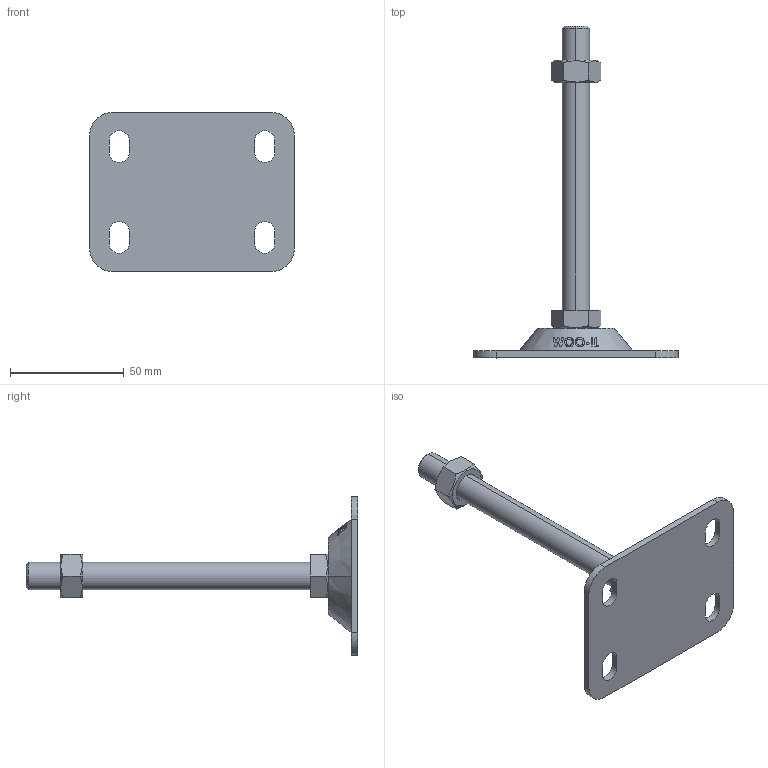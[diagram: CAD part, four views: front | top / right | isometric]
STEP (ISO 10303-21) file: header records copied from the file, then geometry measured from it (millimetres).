
FILE_DESCRIPTION (( 'STEP AP214' ), '1' );
FILE_NAME ('FABL7090-M12-125.step', '2021-03-28T23:50:46', ( '' ), ( '' ), 'SwSTEP 2.0', 'SolidWorks 2019', '' );
FILE_SCHEMA (( 'AUTOMOTIVE_DESIGN' ));
Length unit declared in the file: millimetre
Products named in the file (2): FABL7090-M12-125
Bounding box: 90 x 146 x 70 mm (x, y, z)
Volume: 49871.3 mm3; surface area: 20310 mm2
Topology: 2 solids, 2 shells, 142 faces, 369 edges, 242 vertices
Faces by surface type: plane 58, cylinder 44, cone 22, bspline 18
Entity records: 5925 total; most frequent: CARTESIAN_POINT 2627, ORIENTED_EDGE 738, DIRECTION 553, EDGE_CURVE 369, VERTEX_POINT 242, AXIS2_PLACEMENT_3D 198, EDGE_LOOP 163, VECTOR 157
